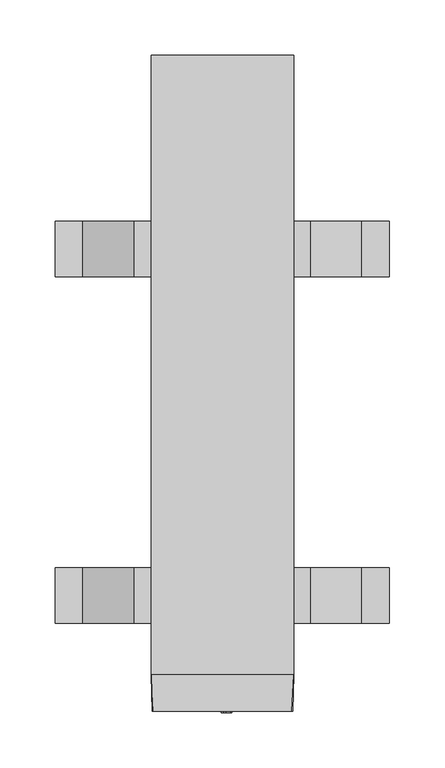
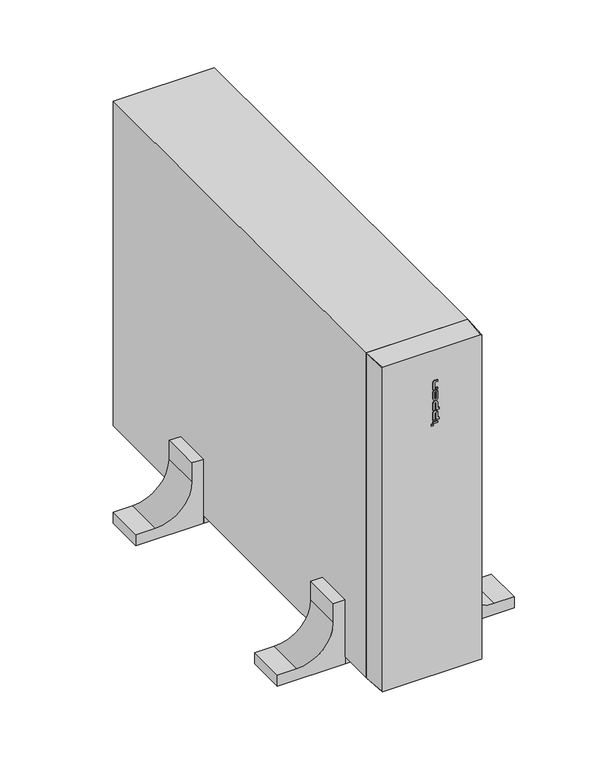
"""IFC4 building model written with IfcOpenShell, lengths in millimetres: proxy geometry, IPPON_EBM_Innova RT II_6000_10000ВА : Innova RT II 10000 ВА."""

import ifcopenshell
import ifcopenshell.guid

model = None  # the IFC model being written
_history = None  # IfcOwnerHistory: only IFC2X3 demands one
_inside = {}  # id of a spatial element -> (the spatial element, [elements in it])
_under = {}  # id of a project, library or spatial element -> (it, [spatial elements below it])
_declared = {}  # id of a project -> (the project, [libraries it declares])
_typed = {}  # id of a type object -> (the type object, [elements of that type])
_made_of = {}  # id of a material, layer set ... -> (it, [elements and type objects made of it])


def new_model(schema):
    """Start an empty IFC model of exactly this schema.

    Asked for "IFC4X3", IfcOpenShell would pick the latest addendum, in which some entities
    have other attributes; the version numbers below select the first issue.
    IFC2X3 requires an IfcOwnerHistory on every rooted entity: one is made here for all.
    """
    global model, _history
    if schema == "IFC4X3":
        model = ifcopenshell.file(schema_version=(4, 3, 0, 0))
    else:
        model = ifcopenshell.file(schema=schema)
    _inside.clear()
    _under.clear()
    _declared.clear()
    _typed.clear()
    _made_of.clear()
    _history = None
    if model.schema == "IFC2X3":
        org = make("IfcOrganization", Name="unknown")
        user = make(
            "IfcPersonAndOrganization",
            ThePerson=make("IfcPerson", FamilyName="unknown"),
            TheOrganization=org,
        )
        app = make(
            "IfcApplication",
            ApplicationDeveloper=org,
            Version="unknown",
            ApplicationFullName="unknown",
            ApplicationIdentifier="unknown",
        )
        _history = make(
            "IfcOwnerHistory",
            OwningUser=user,
            OwningApplication=app,
            ChangeAction="ADDED",
            CreationDate=0,
        )
    return model


def make(cls, **values):
    """One entity of the class cls with the attributes given. An attribute that is None is left unset."""
    return model.create_entity(
        cls, **{name: value for name, value in values.items() if value is not None}
    )


def rooted(cls, **values):
    """An entity with a GlobalId (a new one), such as an element, a storey or a relation."""
    return make(cls, GlobalId=ifcopenshell.guid.new(), OwnerHistory=_history, **values)


def si_unit(unit_type, name, prefix=None):
    """IfcSIUnit, for example si_unit("LENGTHUNIT", "METRE", prefix="MILLI")."""
    return make("IfcSIUnit", UnitType=unit_type, Prefix=prefix, Name=name)


def assignment(units):
    """IfcUnitAssignment: the units of a project."""
    return None if units is None else make("IfcUnitAssignment", Units=units)


def point(xyz):
    """IfcCartesianPoint."""
    return None if xyz is None else make("IfcCartesianPoint", Coordinates=xyz)


def direction(xyz):
    """IfcDirection."""
    return None if xyz is None else make("IfcDirection", DirectionRatios=xyz)


def frame(location, z_axis=None, x_axis=None):
    """IfcAxis2Placement3D, a coordinate frame: its origin and axes. An axis left out is left unset."""
    return make(
        "IfcAxis2Placement3D",
        Location=point(location),
        Axis=direction(z_axis),
        RefDirection=direction(x_axis),
    )


def frame_2d(location, x_axis=None):
    """IfcAxis2Placement2D, a coordinate frame in the plane: its origin and x axis."""
    return make(
        "IfcAxis2Placement2D", Location=point(location), RefDirection=direction(x_axis)
    )


def origin():
    """The frame at (0, 0, 0) with its axes left unset."""
    return frame((0.0, 0.0, 0.0))


def origin_with_axes():
    """The frame at (0, 0, 0) with the z axis (0, 0, 1) and the x axis (1, 0, 0) written out."""
    return frame((0.0, 0.0, 0.0), z_axis=(0.0, 0.0, 1.0), x_axis=(1.0, 0.0, 0.0))


def place(relative_to, where):
    """IfcLocalPlacement: puts the frame where relative to a parent placement (None: the world)."""
    return make(
        "IfcLocalPlacement", PlacementRelTo=relative_to, RelativePlacement=where
    )


def context(
    kind, dimensions, precision=None, world=None, true_north=None, identifier=None
):
    """IfcGeometricRepresentationContext, for example the 3D "Model" context."""
    return make(
        "IfcGeometricRepresentationContext",
        ContextIdentifier=identifier,
        ContextType=kind,
        CoordinateSpaceDimension=dimensions,
        Precision=precision,
        WorldCoordinateSystem=world,
        TrueNorth=true_north,
    )


def project(units=None, contexts=None):
    """IfcProject with its units and contexts."""
    return rooted(
        "IfcProject",
        Name="project",
        RepresentationContexts=contexts,
        UnitsInContext=assignment(units),
    )


def spatial(cls, under=None, at=None, **own):
    """A site, building, storey or space (cls), placed at a placement, below another one or the project."""
    s = rooted(cls, ObjectPlacement=at, **own)
    if under is not None:
        _under.setdefault(under.id(), (under, []))[1].append(s)
    return s


def polyline(points):
    """IfcPolyline through the points."""
    return make("IfcPolyline", Points=[point(p) for p in points])


def circle_curve(where, radius):
    """IfcCircle in the frame where."""
    return make("IfcCircle", Position=where, Radius=radius)


def trimmed(basis, trim1, trim2, sense, master):
    """IfcTrimmedCurve: the piece of a basis curve between two trims."""
    return make(
        "IfcTrimmedCurve",
        BasisCurve=basis,
        Trim1=trim1,
        Trim2=trim2,
        SenseAgreement=sense,
        MasterRepresentation=master,
    )


def segment(curve, same_sense, transition):
    """IfcCompositeCurveSegment."""
    return make(
        "IfcCompositeCurveSegment",
        Transition=transition,
        SameSense=same_sense,
        ParentCurve=curve,
    )


def composite_curve(segments, self_intersect=None):
    """IfcCompositeCurve: segments joined end to end."""
    return make("IfcCompositeCurve", Segments=segments, SelfIntersect=self_intersect)


def outline(outer, holes=None, kind="AREA"):
    """IfcArbitraryClosedProfileDef: a profile drawn as a closed curve; with holes, ...WithVoids."""
    if holes is None:
        return make("IfcArbitraryClosedProfileDef", ProfileType=kind, OuterCurve=outer)
    return make(
        "IfcArbitraryProfileDefWithVoids",
        ProfileType=kind,
        OuterCurve=outer,
        InnerCurves=holes,
    )


def extrude(swept, where, along, depth):
    """IfcExtrudedAreaSolid: the profile swept, set in the frame where, extruded along a direction by depth."""
    return make(
        "IfcExtrudedAreaSolid",
        SweptArea=swept,
        Position=where,
        ExtrudedDirection=direction(along),
        Depth=depth,
    )


def shape(context_of_items, identifier, shape_type, items):
    """IfcShapeRepresentation: the items that make up one representation, for example the "Body"."""
    return make(
        "IfcShapeRepresentation",
        ContextOfItems=context_of_items,
        RepresentationIdentifier=identifier,
        RepresentationType=shape_type,
        Items=items,
    )


def source(mapping_origin, context_of_items, identifier, shape_type, items):
    """IfcRepresentationMap: a shape defined once, which mapped items show again and again."""
    return make(
        "IfcRepresentationMap",
        MappingOrigin=mapping_origin,
        MappedRepresentation=shape(context_of_items, identifier, shape_type, items),
    )


def transform(
    local_origin,
    x_axis=None,
    y_axis=None,
    z_axis=None,
    scale=None,
    scale2=None,
    scale3=None,
    uniform=True,
):
    """IfcCartesianTransformationOperator3D, or its non-uniform kind. x_axis, y_axis, z_axis: its Axis1, 2, 3."""
    if uniform:
        return make(
            "IfcCartesianTransformationOperator3D",
            Axis1=direction(x_axis),
            Axis2=direction(y_axis),
            LocalOrigin=point(local_origin),
            Scale=scale,
            Axis3=direction(z_axis),
        )
    return make(
        "IfcCartesianTransformationOperator3DnonUniform",
        Axis1=direction(x_axis),
        Axis2=direction(y_axis),
        LocalOrigin=point(local_origin),
        Scale=scale,
        Axis3=direction(z_axis),
        Scale2=scale2,
        Scale3=scale3,
    )


def mapped(mapping_source, mapping_target):
    """IfcMappedItem: shows the shape of a source again, moved by a transform."""
    return make(
        "IfcMappedItem", MappingSource=mapping_source, MappingTarget=mapping_target
    )


def made_of(thing, what):
    """Note that an element or type object is made of a material, layer set ...; save() writes the relation."""
    if what is not None:
        _made_of.setdefault(what.id(), (what, []))[1].append(thing)
    return thing


def element(
    cls,
    number,
    at=None,
    inside=None,
    cuts=None,
    type_object=None,
    material=None,
    context=None,
    identifier="Body",
    shape_type=None,
    held_by="IfcProductDefinitionShape",
    body=None,
    shapes=None,
    **own,
):
    """One element of the class cls, such as IfcWall. Its Tag is "e" and its number.

    at: its placement. inside: the storey or other place that contains it. cuts: it is an
    opening in that element (IfcRelVoidsElement). A single representation is given by context,
    identifier, shape_type and body (its items); several are given by shapes. held_by: the class
    of the entity that holds the representations. save() writes the other relations.
    """
    e = rooted(cls, Tag="e%d" % number, ObjectPlacement=at, **own)
    if body is not None:
        shapes = [shape(context, identifier, shape_type, body)]
    if shapes is not None:
        e.Representation = make(held_by, Representations=shapes)
    if inside is not None:
        _inside.setdefault(inside.id(), (inside, []))[1].append(e)
    if cuts is not None:
        rooted(
            "IfcRelVoidsElement", RelatingBuildingElement=cuts, RelatedOpeningElement=e
        )
    if type_object is not None:
        _typed.setdefault(type_object.id(), (type_object, []))[1].append(e)
    return made_of(e, material)


def aggregate(whole, parts):
    """IfcRelAggregates: a whole, such as a stair, and the parts it consists of."""
    return rooted("IfcRelAggregates", RelatingObject=whole, RelatedObjects=parts)


def save(model, path):
    """Write the relations noted so far, then the file.

    IfcRelAggregates (storeys below a building ...), IfcRelContainedInSpatialStructure (elements
    in a storey), IfcRelDefinesByType, IfcRelAssociatesMaterial and IfcRelDeclares: one each for
    every whole, place, type object, material and project.
    """
    for whole, parts in _under.values():
        aggregate(whole, parts)
    for where, things in _inside.values():
        rooted(
            "IfcRelContainedInSpatialStructure",
            RelatedElements=things,
            RelatingStructure=where,
        )
    for kind, things in _typed.values():
        rooted("IfcRelDefinesByType", RelatedObjects=things, RelatingType=kind)
    for what, things in _made_of.values():
        rooted("IfcRelAssociatesMaterial", RelatedObjects=things, RelatingMaterial=what)
    for by, libraries in _declared.values():
        rooted("IfcRelDeclares", RelatingContext=by, RelatedDefinitions=libraries)
    model.write(path)


def plane_surface(at):
    """IfcPlane: the flat surface through the origin of the frame at, square to its z axis."""
    return make("IfcPlane", Position=at)


def spline_surface(u_degree, v_degree, points, u_multiplicities, v_multiplicities, u_knots, v_knots, weights=None):
    """IfcBSplineSurfaceWithKnots; with weights, IfcRationalBSplineSurfaceWithKnots. points: one row for each step in u."""
    own = dict(
        UDegree=u_degree,
        VDegree=v_degree,
        ControlPointsList=[[point(p) for p in row] for row in points],
        SurfaceForm="UNSPECIFIED",
        UClosed=False,
        VClosed=False,
        SelfIntersect=False,
        UMultiplicities=u_multiplicities,
        VMultiplicities=v_multiplicities,
        UKnots=u_knots,
        VKnots=v_knots,
        KnotSpec="UNSPECIFIED",
    )
    if weights is None:
        return make("IfcBSplineSurfaceWithKnots", **own)
    return make("IfcRationalBSplineSurfaceWithKnots", WeightsData=weights, **own)


def advanced_brep(points, edges, surfaces, faces):
    """IfcAdvancedBrep: a solid bounded by faces that lie on surfaces and meet in shared edges.

    An edge is (start, end): straight between two places in points (the first is 0);
    or (start, end, curve); or (start, end, curve, False) where it runs against its curve.
    A face is (place in surfaces, loops), or (place, loops, False) where it looks against
    its surface's normal. A loop lists edges by number (the first is 1), with a minus sign
    where the edge is run from its end to its start. The first loop is the outer one.
    """
    corners = [point(p) for p in points]
    vertices = [make("IfcVertexPoint", VertexGeometry=c) for c in corners]
    made = []
    for start, end, *more in edges:
        made.append(
            make(
                "IfcEdgeCurve",
                EdgeStart=vertices[start],
                EdgeEnd=vertices[end],
                EdgeGeometry=more[0] if more else make("IfcPolyline", Points=[corners[start], corners[end]]),
                SameSense=more[1] if len(more) > 1 else True,
            )
        )
    hull = []
    for where, loops, *sense in faces:
        bounds = []
        for j, loop in enumerate(loops):
            ring = [make("IfcOrientedEdge", EdgeElement=made[abs(k) - 1], Orientation=k > 0) for k in loop]
            bounds.append(
                make(
                    "IfcFaceOuterBound" if j == 0 else "IfcFaceBound",
                    Bound=make("IfcEdgeLoop", EdgeList=ring),
                    Orientation=True,
                )
            )
        hull.append(make("IfcAdvancedFace", Bounds=bounds, FaceSurface=surfaces[where], SameSense=sense[0] if sense else True))
    return make("IfcAdvancedBrep", Outer=make("IfcClosedShell", CfsFaces=hull))


def electrical_equipment_9298a4e4(model_context):
    return source(origin(), model_context, "Body", "SolidModel", [
        extrude(outline(polyline([(1.0304165, -1.0), (-1.2695835, -1.0), (-1.2695835, 0.0), (1.0304165, 0.0), (1.0304165, -1.0)])), frame((0.0, 0.0, 347.5586032), z_axis=(0.0, 0.0, 1.0), x_axis=(1.0, 0.0, 0.0)), (0.0, 0.0, 1.0), 2.0),
        extrude(outline(polyline([(7.0304165, -1.0), (4.8035934, -1.0), (4.8035934, 0.0), (7.0304165, 0.0), (7.0304165, -1.0)])), frame((0.0, 0.0, 395.3339638), z_axis=(0.0, 0.0, 1.0), x_axis=(1.0, 0.0, 0.0)), (0.0, 0.0, 1.0), 2.0),
        extrude(outline(polyline([(7.0304165, -1.0), (1.0304165, -1.0), (1.0304165, 0.0), (7.0304165, 0.0), (7.0304165, -1.0)])), frame((0.0, 0.0, 350.247084), z_axis=(0.0, 0.0, 1.0), x_axis=(1.0, 0.0, 0.0)), (0.0, 0.0, 1.0), 2.0447674),
        extrude(outline(composite_curve([segment(polyline([(354.5063056, 3.2928565), (363.7380629, 3.2928565)]), True, "CONTINUOUS"), segment(trimmed(circle_curve(frame_2d((363.7380629, 4.1493358)), 0.8564793), [point((363.7380629, 3.2928565))], [point((363.7380629, 5.0058151))], True, "CARTESIAN"), True, "CONTINUOUS"), segment(polyline([(363.7380629, 5.0058151), (354.5063056, 5.0058151), (354.5063056, 8.4963197), (356.5063056, 8.4963197), (356.5063056, 7.0304165), (363.5818129, 7.0304165)]), True, "CONTINUOUS"), segment(trimmed(circle_curve(frame_2d((363.5818129, 4.0304165)), 3.0), [point((363.5818129, 7.0304165))], [point((363.5818129, 1.0304165))], False, "CARTESIAN"), True, "CONTINUOUS"), segment(polyline([(363.5818129, 1.0304165), (354.5063056, 1.0304165), (354.5063056, 3.2928565)]), True, "CONTINUOUS")], self_intersect=False)), frame((0.0, -1.0, 0.0), z_axis=(0.0, 1.0, 0.0), x_axis=(0.0, 0.0, 1.0)), (0.0, 0.0, 1.0), 1.0),
        extrude(outline(composite_curve([segment(polyline([(367.7133073, 3.2928565), (376.9450646, 3.2928565)]), True, "CONTINUOUS"), segment(trimmed(circle_curve(frame_2d((376.9450646, 4.1493358)), 0.8564793), [point((376.9450646, 3.2928565))], [point((376.9450646, 5.0058151))], True, "CARTESIAN"), True, "CONTINUOUS"), segment(polyline([(376.9450646, 5.0058151), (367.7133073, 5.0058151), (367.7133073, 8.4963197), (369.7133073, 8.4963197), (369.7133073, 7.0304165), (376.7888146, 7.0304165)]), True, "CONTINUOUS"), segment(trimmed(circle_curve(frame_2d((376.7888146, 4.0304165)), 3.0), [point((376.7888146, 7.0304165))], [point((376.7888146, 1.0304165))], False, "CARTESIAN"), True, "CONTINUOUS"), segment(polyline([(376.7888146, 1.0304165), (367.7133073, 1.0304165), (367.7133073, 3.2928565)]), True, "CONTINUOUS")], self_intersect=False)), frame((0.0, -1.0, 0.0), z_axis=(0.0, 1.0, 0.0), x_axis=(0.0, 0.0, 1.0)), (0.0, 0.0, 1.0), 1.0),
        extrude(outline(composite_curve([segment(trimmed(circle_curve(frame_2d((391.2890735, 4.0304165)), 3.0), [point((391.2890735, 7.0304165))], [point((391.2890735, 1.0304165))], False, "CARTESIAN"), True, "CONTINUOUS"), segment(polyline([(391.2890735, 1.0304165), (383.6890735, 1.0304165)]), True, "CONTINUOUS"), segment(trimmed(circle_curve(frame_2d((383.6890735, 4.0304165)), 3.0), [point((383.6890735, 1.0304165))], [point((383.6890735, 7.0304165))], False, "CARTESIAN"), True, "CONTINUOUS"), segment(polyline([(383.6890735, 7.0304165), (391.2890735, 7.0304165)]), True, "CONTINUOUS")], self_intersect=False), holes=[composite_curve([segment(polyline([(391.4453235, 5.0058151), (383.5328235, 5.0058151)]), True, "CONTINUOUS"), segment(trimmed(circle_curve(frame_2d((383.5328235, 4.1493358)), 0.8564793), [point((383.5328235, 5.0058151))], [point((383.5328235, 3.2928565))], True, "CARTESIAN"), True, "CONTINUOUS"), segment(polyline([(383.5328235, 3.2928565), (391.4453235, 3.2928565)]), True, "CONTINUOUS"), segment(trimmed(circle_curve(frame_2d((391.4453235, 4.1493358)), 0.8564793), [point((391.4453235, 3.2928565))], [point((391.4453235, 5.0058151))], True, "CARTESIAN"), True, "CONTINUOUS")], self_intersect=False)]), frame((0.0, -1.0, 0.0), z_axis=(0.0, 1.0, 0.0), x_axis=(0.0, 0.0, 1.0)), (0.0, 0.0, 1.0), 1.0),
        extrude(outline(composite_curve([segment(polyline([(395.3339638, 3.2928565), (404.5657211, 3.2928565)]), True, "CONTINUOUS"), segment(trimmed(circle_curve(frame_2d((404.5657211, 4.1493358)), 0.8564793), [point((404.5657211, 3.2928565))], [point((405.4222004, 4.1493358))], True, "CARTESIAN"), True, "CONTINUOUS"), segment(polyline([(405.4222004, 4.1493358), (405.4222004, 7.0304165), (407.3622085, 7.0304165), (407.3622085, 3.5)]), True, "CONTINUOUS"), segment(trimmed(circle_curve(frame_2d((404.4094711, 4.0304165)), 3.0), [point((407.3622085, 3.5))], [point((404.4094711, 1.0304165))], False, "CARTESIAN"), True, "CONTINUOUS"), segment(polyline([(404.4094711, 1.0304165), (395.3339638, 1.0304165), (395.3339638, 3.2928565)]), True, "CONTINUOUS")], self_intersect=False)), frame((0.0, -1.0, 0.0), z_axis=(0.0, 1.0, 0.0), x_axis=(0.0, 0.0, 1.0)), (0.0, 0.0, 1.0), 1.0),
        advanced_brep(
        [(63.5, 0.0, 447.0), (62.5, 0.0, 448.0), (-62.5, 0.0, 448.0), (-63.5, 0.0, 447.0), (-63.5, 0.0, 11.0), (-62.5, 0.0, 10.0), (62.5, 0.0, 10.0), (63.5, 0.0, 11.0), (64.5, 33.0, 448.0), (64.5, 33.0, 10.0), (-64.5, 33.0, 10.0), (-64.5, 33.0, 448.0)],
        [
            (0, 1, circle_curve(frame((62.5, 0.0, 447.0), z_axis=(0.0, -1.0, 0.0), x_axis=(1.0, 0.0, 0.0)), 1.0)),
            (1, 2),
            (2, 3, circle_curve(frame((-62.5, 0.0, 447.0), z_axis=(0.0, -1.0, 0.0), x_axis=(1.0, 0.0, 0.0)), 1.0)),
            (3, 4),
            (4, 5, circle_curve(frame((-62.5, 0.0, 11.0), z_axis=(0.0, -1.0, 0.0), x_axis=(1.0, 0.0, 0.0)), 1.0)),
            (5, 6),
            (6, 7, circle_curve(frame((62.5, 0.0, 11.0), z_axis=(0.0, -1.0, 0.0), x_axis=(1.0, 0.0, 0.0)), 1.0)),
            (7, 0),
            (8, 9),
            (9, 10),
            (10, 11),
            (11, 8),
            (0, 8),
            (8, 1),
            (11, 2),
            (11, 3),
            (10, 4),
            (10, 5),
            (9, 6),
            (9, 7),
        ],
        [
            plane_surface(frame((0.0, 0.0, 229.0), z_axis=(0.0, -1.0, 0.0), x_axis=(-1.0, 0.0, 0.0))),
            plane_surface(frame((0.0, 33.0, 229.0), z_axis=(0.0, 1.0, 0.0), x_axis=(-1.0, 0.0, 0.0))),
            spline_surface(2, 1, [[(64.5, 33.0, 448.0), (63.5, 0.0, 447.0)], [(64.5, 33.0, 448.0), (63.5, 0.0, 448.0)], [(64.5, 33.0, 448.0), (62.5, 0.0, 448.0)]], [3, 3], [2, 2], [0.0, 1.0], [0.0, 1.0], weights=[[1.0, 1.0], [0.7071067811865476, 0.7071067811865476], [1.0, 1.0]]),
            plane_surface(frame((0.0, 33.0, 448.0), z_axis=(0.0, 0.0, 1.0), x_axis=(-1.0, 0.0, 0.0))),
            spline_surface(2, 1, [[(-64.5, 33.0, 448.0), (-62.5, 0.0, 448.0)], [(-64.5, 33.0, 448.0), (-63.5, 0.0, 448.0)], [(-64.5, 33.0, 448.0), (-63.5, 0.0, 447.0)]], [3, 3], [2, 2], [0.0, 1.0], [0.0, 1.0], weights=[[1.0, 1.0], [0.7071067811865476, 0.7071067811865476], [1.0, 1.0]]),
            plane_surface(frame((-64.5, 33.0, 229.0), z_axis=(-0.9995411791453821, -0.03028912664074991, 0.0), x_axis=(0.0, 0.0, -1.0))),
            spline_surface(2, 1, [[(-64.5, 33.0, 10.0), (-63.5, 0.0, 11.0)], [(-64.5, 33.0, 10.0), (-63.5, 0.0, 10.0)], [(-64.5, 33.0, 10.0), (-62.5, 0.0, 10.0)]], [3, 3], [2, 2], [0.0, 1.0], [0.0, 1.0], weights=[[1.0, 1.0], [0.7071067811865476, 0.7071067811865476], [1.0, 1.0]]),
            plane_surface(frame((0.0, 33.0, 10.0), z_axis=(0.0, 0.0, -1.0), x_axis=(1.0, 0.0, 0.0))),
            spline_surface(2, 1, [[(64.5, 33.0, 10.0), (62.5, 0.0, 10.0)], [(64.5, 33.0, 10.0), (63.5, 0.0, 10.0)], [(64.5, 33.0, 10.0), (63.5, 0.0, 11.0)]], [3, 3], [2, 2], [0.0, 1.0], [0.0, 1.0], weights=[[1.0, 1.0], [0.7071067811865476, 0.7071067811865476], [1.0, 1.0]]),
            plane_surface(frame((64.5, 33.0, 229.0), z_axis=(0.9995411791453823, -0.03028912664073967, 0.0), x_axis=(0.0, 0.0, 1.0))),
        ],
        [
            (0, [[1, 2, 3, 4, 5, 6, 7, 8]]),
            (1, [[9, 10, 11, 12]]),
            (2, [[-1, 13, 14]]),
            (3, [[-12, 15, -2, -14]]),
            (4, [[-3, -15, 16]]),
            (5, [[-11, 17, -4, -16]]),
            (6, [[-5, -17, 18]]),
            (7, [[-10, 19, -6, -18]]),
            (8, [[-7, -19, 20]]),
            (9, [[-9, -13, -8, -20]]),
        ],
    ),
        extrude(outline(polyline([(64.5, 33.0), (-64.5, 33.0), (-64.5, 593.0), (64.5, 593.0), (64.5, 33.0)])), frame((0.0, 0.0, 10.0), z_axis=(0.0, 0.0, 1.0), x_axis=(1.0, 0.0, 0.0)), (0.0, 0.0, 1.0), 438.0),
        extrude(outline(composite_curve([segment(polyline([(0.0, -64.5), (86.5, -64.5), (86.5, -79.5), (61.5, -79.5)]), True, "CONTINUOUS"), segment(trimmed(circle_curve(frame_2d((61.5, -126.0)), 46.5), [point((61.5, -79.5))], [point((15.0, -126.0))], True, "CARTESIAN"), True, "CONTINUOUS"), segment(polyline([(15.0, -126.0), (15.0, -151.0), (0.0, -151.0), (0.0, -64.5)]), True, "CONTINUOUS")], self_intersect=False)), frame((0.0, 393.0, 0.0), z_axis=(0.0, 1.0, 0.0), x_axis=(0.0, 0.0, 1.0)), (0.0, 0.0, 1.0), 50.0),
        extrude(outline(composite_curve([segment(polyline([(0.0, -64.5), (86.5, -64.5), (86.5, -79.5), (61.5, -79.5)]), True, "CONTINUOUS"), segment(trimmed(circle_curve(frame_2d((61.5, -126.0)), 46.5), [point((61.5, -79.5))], [point((15.0, -126.0))], True, "CARTESIAN"), True, "CONTINUOUS"), segment(polyline([(15.0, -126.0), (15.0, -151.0), (0.0, -151.0), (0.0, -64.5)]), True, "CONTINUOUS")], self_intersect=False)), frame((0.0, 80.0, 0.0), z_axis=(0.0, 1.0, 0.0), x_axis=(0.0, 0.0, 1.0)), (0.0, 0.0, 1.0), 50.0),
        extrude(outline(polyline([(-64.5, 443.0), (64.5, 443.0), (64.5, 393.0), (-64.5, 393.0), (-64.5, 443.0)])), origin_with_axes(), (0.0, 0.0, 1.0), 10.0),
        extrude(outline(polyline([(64.5, 80.0), (-64.5, 80.0), (-64.5, 130.0), (64.5, 130.0), (64.5, 80.0)])), origin_with_axes(), (0.0, 0.0, 1.0), 10.0),
        extrude(outline(composite_curve([segment(polyline([(0.0, 151.0), (15.0, 151.0), (15.0, 126.0)]), True, "CONTINUOUS"), segment(trimmed(circle_curve(frame_2d((61.5, 126.0)), 46.5), [point((15.0, 126.0))], [point((61.5, 79.5))], True, "CARTESIAN"), True, "CONTINUOUS"), segment(polyline([(61.5, 79.5), (86.5, 79.5), (86.5, 64.5), (0.0, 64.5), (0.0, 151.0)]), True, "CONTINUOUS")], self_intersect=False)), frame((0.0, 393.0, 0.0), z_axis=(0.0, 1.0, 0.0), x_axis=(0.0, 0.0, 1.0)), (0.0, 0.0, 1.0), 50.0),
        extrude(outline(composite_curve([segment(polyline([(0.0, 64.5), (0.0, 151.0), (15.0, 151.0), (15.0, 126.0)]), True, "CONTINUOUS"), segment(trimmed(circle_curve(frame_2d((61.5, 126.0)), 46.5), [point((15.0, 126.0))], [point((61.5, 79.5))], True, "CARTESIAN"), True, "CONTINUOUS"), segment(polyline([(61.5, 79.5), (86.5, 79.5), (86.5, 64.5), (0.0, 64.5)]), True, "CONTINUOUS")], self_intersect=False)), frame((0.0, 80.0, 0.0), z_axis=(0.0, 1.0, 0.0), x_axis=(0.0, 0.0, 1.0)), (0.0, 0.0, 1.0), 50.0),
    ])


if __name__ == "__main__":
    model = new_model("IFC4")
    model_context = context("Model", 3, world=origin())
    ifc_project = project(units=[si_unit("LENGTHUNIT", "METRE", prefix="MILLI")], contexts=[model_context])
    site = spatial("IfcSite", under=ifc_project)
    building = spatial("IfcBuilding", under=site)
    placement = place(None, origin())
    electrical_equipment_shape = electrical_equipment_9298a4e4(model_context)
    element("IfcBuildingElementProxy", 1, Name="IPPON_EBM_Innova RT II_6000_10000ВА : Innova RT II 10000 ВА", ObjectType="IPPON_EBM_Innova RT II_6000_10000ВА : Innova RT II 10000 ВА", at=placement, inside=building, context=model_context, shape_type="MappedRepresentation", body=[
        mapped(electrical_equipment_shape, transform((0.0, 0.0, 0.0), x_axis=(1.0, 0.0, 0.0), y_axis=(0.0, 1.0, 0.0), z_axis=(0.0, 0.0, 1.0))),
    ])
    save(model, "model.ifc")
